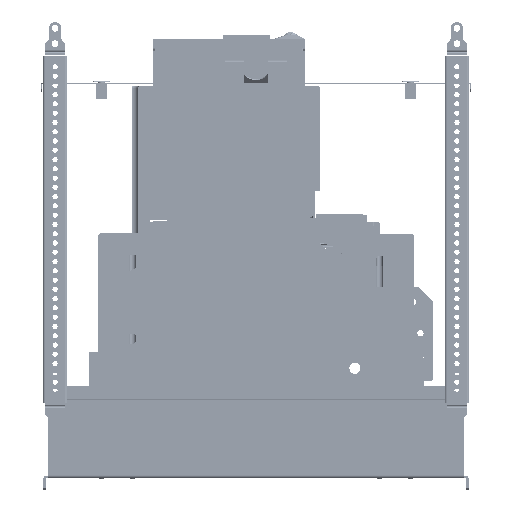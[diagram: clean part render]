
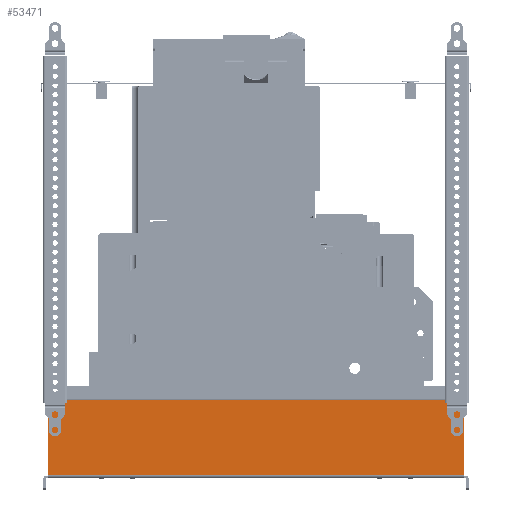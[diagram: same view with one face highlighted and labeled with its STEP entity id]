
A CAD part, left-side view. The second image highlights one B-rep face of the part: STEP entity #53471.
In plain terms, the highlighted planar face has unit normal (-1, 0, 0).
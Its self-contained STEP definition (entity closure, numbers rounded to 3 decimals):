
#50471=CARTESIAN_POINT(' ',(-327.061,-165.467,-65.047));
#50472=VERTEX_POINT(' ',#50471);
#50486=CARTESIAN_POINT(' ',(-327.061,-165.467,-65.047));
#50491=DIRECTION(' ',(0.,1.,0.));
#50496=VECTOR(' ',#50491,1.);
#50501=LINE('',#50486,#50496);
#50506=CARTESIAN_POINT(' ',(-327.061,171.533,-65.047));
#50507=VERTEX_POINT(' ',#50506);
#50511=EDGE_CURVE(' ',#50472,#50507,#50501,.T.);
#51691=CARTESIAN_POINT(' ',(-327.061,-165.467,-4.147));
#51692=VERTEX_POINT(' ',#51691);
#51706=CARTESIAN_POINT(' ',(-327.061,-165.467,-65.047));
#51711=DIRECTION(' ',(0.,0.,1.));
#51716=VECTOR(' ',#51711,1.);
#51721=LINE('',#51706,#51716);
#51726=EDGE_CURVE(' ',#50472,#51692,#51721,.T.);
#53361=DIRECTION(' ',(-1.,0.,0.));
#53366=CARTESIAN_POINT(' ',(-327.061,-165.467,-4.147));
#53371=DIRECTION(' ',(0.,1.,0.));
#53376=AXIS2_PLACEMENT_3D(' ',#53366,#53361,#53371);
#53381=PLANE('NONE',#53376);
#53386=ORIENTED_EDGE(' ',*,*,#50511,.F.);
#53391=ORIENTED_EDGE(' ',*,*,#51726,.T.);
#53396=CARTESIAN_POINT(' ',(-327.061,-165.467,-4.147));
#53401=DIRECTION(' ',(0.,1.,0.));
#53406=VECTOR(' ',#53401,1.);
#53411=LINE('',#53396,#53406);
#53416=CARTESIAN_POINT(' ',(-327.061,171.533,-4.147));
#53417=VERTEX_POINT(' ',#53416);
#53421=EDGE_CURVE(' ',#51692,#53417,#53411,.T.);
#53426=ORIENTED_EDGE(' ',*,*,#53421,.T.);
#53431=CARTESIAN_POINT(' ',(-327.061,171.533,-4.147));
#53436=DIRECTION(' ',(0.,0.,-1.));
#53441=VECTOR(' ',#53436,1.);
#53446=LINE('',#53431,#53441);
#53451=EDGE_CURVE(' ',#53417,#50507,#53446,.T.);
#53456=ORIENTED_EDGE(' ',*,*,#53451,.T.);
#53461=EDGE_LOOP(' ',(#53386,#53391,#53426,#53456));
#53466=FACE_OUTER_BOUND(' ',#53461,.T.);
#53471=ADVANCED_FACE('NONE',(#53466),#53381,.T.);
